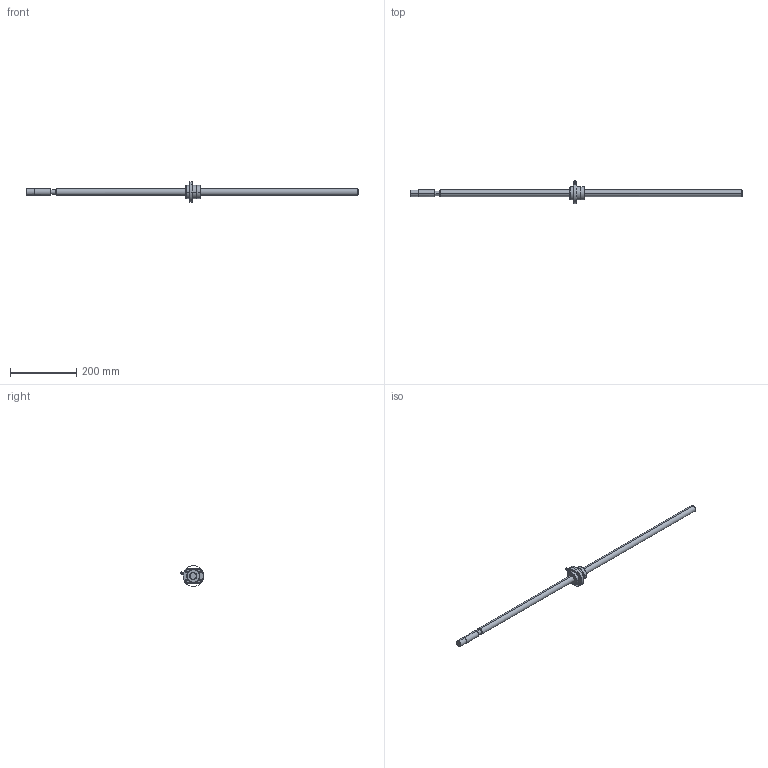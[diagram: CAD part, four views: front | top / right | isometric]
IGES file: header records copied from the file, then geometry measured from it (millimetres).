
Global section: file name: No Iges File Name specified; native system: AutoDesk Inventor R10; preprocessor: AutoDesk Inventor Iges Exporter R10; author: No Author specified; organization: No Organization specified; date: 20101224.134329; units: millimetre
Bounding box: 1000 x 69.81 x 61.95 mm (x, y, z)
Surface area: 78319.4 mm2 (no closed solid volume)
Topology: 0 solids, 0 shells, 80 faces, 487 edges, 483 vertices
Faces by surface type: bspline 80
